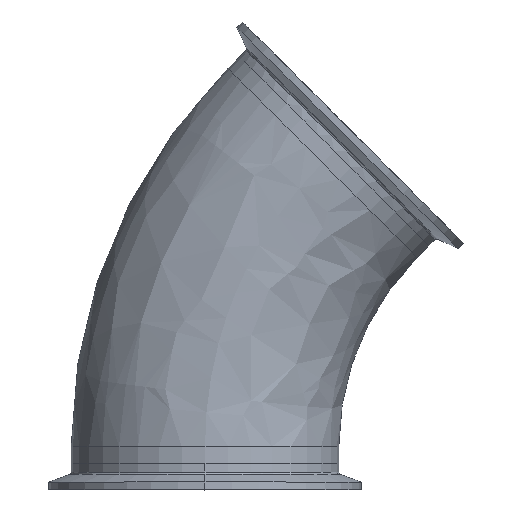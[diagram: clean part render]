
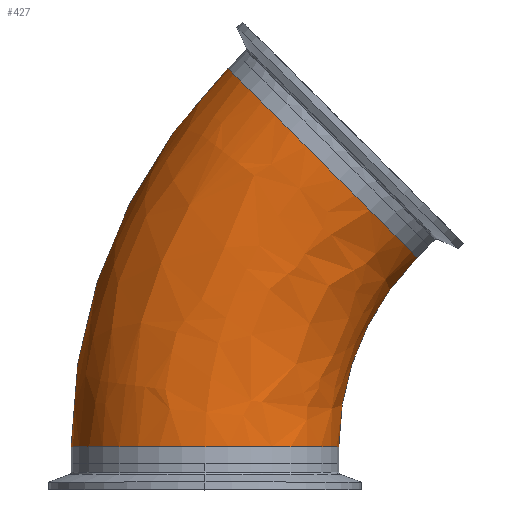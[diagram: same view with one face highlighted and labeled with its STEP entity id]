
A CAD part, top view. The second image highlights one B-rep face of the part: STEP entity #427.
In plain terms, the highlighted free-form (B-spline) face has degree [3, 3] with [4, 4] control points.
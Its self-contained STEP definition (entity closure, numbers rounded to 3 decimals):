
#50 = CARTESIAN_POINT ( 'NONE',  ( 80.558, 78.116, 0. ) ) ;
#94 = CARTESIAN_POINT ( 'NONE',  ( -29.901, 111.341, 101.6 ) ) ;
#203 = ORIENTED_EDGE ( 'NONE', *, *, #939, .F. ) ;
#265 = CARTESIAN_POINT ( 'NONE',  ( -50.8, 6.274, 101.6 ) ) ;
#290 = CARTESIAN_POINT ( 'NONE',  ( 8.716, 149.958, 101.6 ) ) ;
#325 = DIRECTION ( 'NONE',  ( -0.707, 0.707, 0. ) ) ;
#427 = ADVANCED_FACE ( 'NONE', ( #1306 ), #743, .T. ) ;
#439 = AXIS2_PLACEMENT_3D ( 'NONE', #2884, #1847, #1582 ) ;
#468 = CARTESIAN_POINT ( 'NONE',  ( -50.8, 6.274, 0. ) ) ;
#473 = CARTESIAN_POINT ( 'NONE',  ( 50.8, 6.274, 101.6 ) ) ;
#687 = EDGE_CURVE ( 'NONE', #1635, #2871, #1765, .T. ) ;
#733 = CARTESIAN_POINT ( 'NONE',  ( 50.8, 33.58, 101.6 ) ) ;
#743 =( BOUNDED_SURFACE ( )  B_SPLINE_SURFACE ( 3, 3, ( 
 ( #1634, #791, #3306, #1949 ),
 ( #265, #2668, #94, #290 ),
 ( #473, #733, #2724, #983 ),
 ( #753, #3039, #2910, #50 ) ),
 .UNSPECIFIED., .F., .F., .F. ) 
 B_SPLINE_SURFACE_WITH_KNOTS ( ( 4, 4 ),
 ( 4, 4 ),
 ( 0., 1. ),
 ( 0., 1. ),
 .UNSPECIFIED. ) 
 GEOMETRIC_REPRESENTATION_ITEM ( )  RATIONAL_B_SPLINE_SURFACE ( (
 ( 1., 0.949, 0.949, 1.),
 ( 0.333, 0.316, 0.316, 0.333),
 ( 0.333, 0.316, 0.316, 0.333),
 ( 1., 0.949, 0.949, 1.) ) ) 
 REPRESENTATION_ITEM ( '' )  SURFACE ( )  );
#749 = CARTESIAN_POINT ( 'NONE',  ( 0., 6.274, 0. ) ) ;
#753 = CARTESIAN_POINT ( 'NONE',  ( 50.8, 6.274, 0. ) ) ;
#774 = CARTESIAN_POINT ( 'NONE',  ( 44.637, 114.037, 0. ) ) ;
#791 = CARTESIAN_POINT ( 'NONE',  ( -50.8, 60.886, 0. ) ) ;
#892 = AXIS2_PLACEMENT_3D ( 'NONE', #2214, #1965, #1239 ) ;
#939 = EDGE_CURVE ( 'NONE', #2424, #2871, #1956, .T. ) ;
#983 = CARTESIAN_POINT ( 'NONE',  ( 80.558, 78.116, 101.6 ) ) ;
#1075 = EDGE_CURVE ( 'NONE', #2424, #3081, #1163, .T. ) ;
#1092 = EDGE_LOOP ( 'NONE', ( #2758, #1563, #2206, #203 ) ) ;
#1099 = CARTESIAN_POINT ( 'NONE',  ( 50.8, 6.274, 0. ) ) ;
#1163 = CIRCLE ( 'NONE', #2899, 50.8 ) ;
#1166 = DIRECTION ( 'NONE',  ( -0.707, -0.707, 0. ) ) ;
#1239 = DIRECTION ( 'NONE',  ( -1., 0., 0. ) ) ;
#1306 = FACE_OUTER_BOUND ( 'NONE', #1092, .T. ) ;
#1333 = EDGE_CURVE ( 'NONE', #3081, #1635, #1855, .T. ) ;
#1545 = AXIS2_PLACEMENT_3D ( 'NONE', #774, #1166, #325 ) ;
#1563 = ORIENTED_EDGE ( 'NONE', *, *, #1333, .T. ) ;
#1582 = DIRECTION ( 'NONE',  ( -1., 0., 0. ) ) ;
#1634 = CARTESIAN_POINT ( 'NONE',  ( -50.8, 6.274, 0. ) ) ;
#1635 = VERTEX_POINT ( 'NONE', #2789 ) ;
#1765 = CIRCLE ( 'NONE', #1545, 50.8 ) ;
#1847 = DIRECTION ( 'NONE',  ( 0., 0., -1. ) ) ;
#1855 = CIRCLE ( 'NONE', #892, 101.6 ) ;
#1949 = CARTESIAN_POINT ( 'NONE',  ( 8.716, 149.958, 0. ) ) ;
#1956 = CIRCLE ( 'NONE', #439, 203.2 ) ;
#1965 = DIRECTION ( 'NONE',  ( 0., 0., -1. ) ) ;
#2206 = ORIENTED_EDGE ( 'NONE', *, *, #687, .T. ) ;
#2214 = CARTESIAN_POINT ( 'NONE',  ( 152.4, 6.274, 0. ) ) ;
#2345 = CARTESIAN_POINT ( 'NONE',  ( 8.716, 149.958, 0. ) ) ;
#2424 = VERTEX_POINT ( 'NONE', #468 ) ;
#2668 = CARTESIAN_POINT ( 'NONE',  ( -50.8, 60.886, 101.6 ) ) ;
#2724 = CARTESIAN_POINT ( 'NONE',  ( 61.25, 58.808, 101.6 ) ) ;
#2758 = ORIENTED_EDGE ( 'NONE', *, *, #1075, .T. ) ;
#2789 = CARTESIAN_POINT ( 'NONE',  ( 80.558, 78.116, 0. ) ) ;
#2871 = VERTEX_POINT ( 'NONE', #2345 ) ;
#2884 = CARTESIAN_POINT ( 'NONE',  ( 152.4, 6.274, 0. ) ) ;
#2899 = AXIS2_PLACEMENT_3D ( 'NONE', #749, #3169, #3365 ) ;
#2910 = CARTESIAN_POINT ( 'NONE',  ( 61.25, 58.808, 0. ) ) ;
#3039 = CARTESIAN_POINT ( 'NONE',  ( 50.8, 33.58, 0. ) ) ;
#3081 = VERTEX_POINT ( 'NONE', #1099 ) ;
#3169 = DIRECTION ( 'NONE',  ( 0., 1., 0. ) ) ;
#3306 = CARTESIAN_POINT ( 'NONE',  ( -29.901, 111.341, 0. ) ) ;
#3365 = DIRECTION ( 'NONE',  ( -1., 0., 0. ) ) ;
